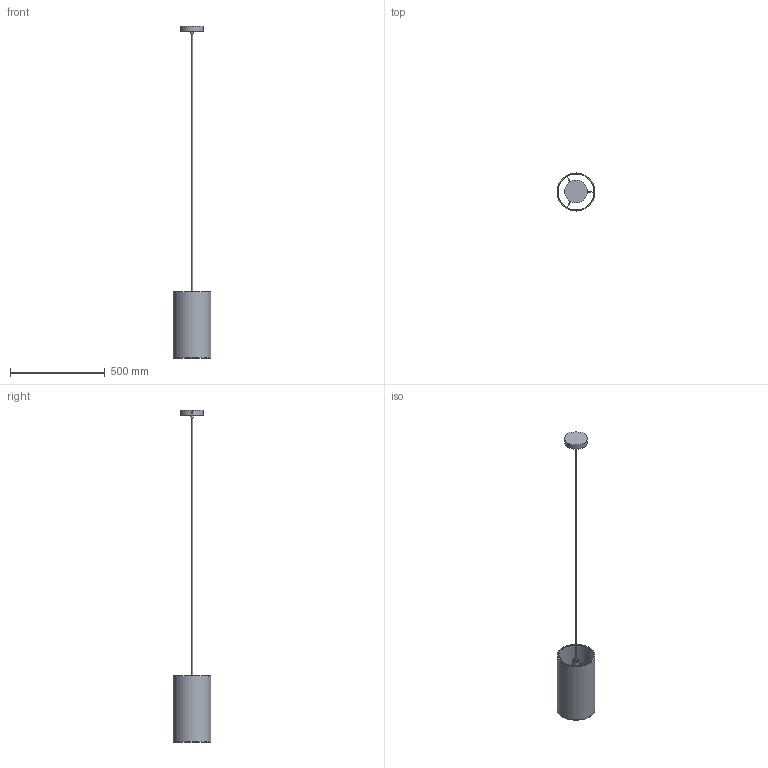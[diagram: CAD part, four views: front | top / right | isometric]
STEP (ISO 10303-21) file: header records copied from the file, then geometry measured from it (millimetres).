
FILE_DESCRIPTION(/* description */ (''),/* implementation_level */ '2;1');
FILE_NAME(/* name */ 'C:/Users/Jakub Wieczorkowski/Desktop/STEP/TERCINO_6120 v6 v2 v1.step',/* time_stamp */ '2022-02-22T08:25:44+01:00',/* author */ (''),/* organization */ (''),/* preprocessor_version */ 'ST-DEVELOPER v18.1',/* originating_system */ 'Autodesk Translation Framework v10.13.0.1454',/* authorisation */ '');
FILE_SCHEMA (('AUTOMOTIVE_DESIGN { 1 0 10303 214 3 1 1 }'));
Length unit declared in the file: millimetre
Products named in the file (5): TERCINO_6120 v6 v2; Cięgno v1; TERCINO_OPRAWA_ZWIS v2; SRUBA TERCINO v1; SRUBA TERCINO v1(Mirror)
Assembly tree (4 placements, depth 2):
  TERCINO_6120 v6 v2
    Cięgno v1
    TERCINO_OPRAWA_ZWIS v2
    SRUBA TERCINO v1
    SRUBA TERCINO v1(Mirror)
Bounding box: 200 x 200 x 1750 mm (x, y, z)
Volume: 891223 mm3; surface area: 540467.9 mm2
Topology: 23 solids, 23 shells, 515 faces, 1219 edges, 755 vertices
Faces by surface type: bspline 205, plane 185, cylinder 100, torus 11, sphere 10, cone 4
Full cylindrical faces by diameter (mm): 3 x6, 4 x6, 5 x1, 6 x1, 8 x2, 34.939 x1, 36 x1, 42 x1, 58 x1, 120 x1, 190 x2, 196 x1, 200 x1
Entity records: 28977 total; most frequent: CARTESIAN_POINT 18873, ORIENTED_EDGE 2438, DIRECTION 1338, EDGE_CURVE 1219, VERTEX_POINT 755, B_SPLINE_CURVE_WITH_KNOTS 695, EDGE_LOOP 534, FACE_OUTER_BOUND 515
